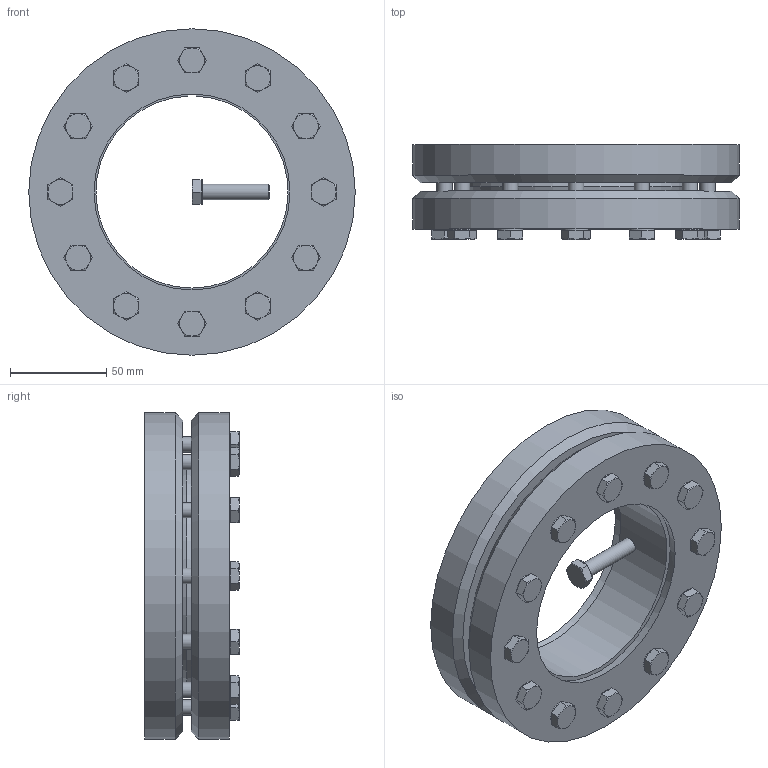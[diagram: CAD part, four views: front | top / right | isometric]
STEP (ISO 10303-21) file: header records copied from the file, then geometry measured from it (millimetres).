
FILE_DESCRIPTION( ( 'Unknown' ), '1' );
FILE_NAME( 'C:/Dokumente und Einstellungen/Sven/Desktop/homepage/cad - homepage/KBS19/KBS 19 - 100 x 170.stp', 'Unknown', ( 'Unknown' ), ( 'Unknown' ), 'XStep 1.0', 'Unknown', ' ' );
FILE_SCHEMA( ( 'automotive_design' ) );
Length unit declared in the file: millimetre
Products named in the file (3): Assem1; KBS 19 - 100 x 170; ISO 4017 - M8 x 35-N
Bounding box: 170 x 49.3 x 170 mm (x, y, z)
Volume: 1152021.3 mm3; surface area: 218342 mm2
Topology: 15 solids, 15 shells, 419 faces, 978 edges, 602 vertices
Faces by surface type: plane 223, cone 103, cylinder 80, torus 13
Full cylindrical faces by diameter (mm): 8 x61, 13 x13, 170 x4
Entity records: 2568 total; most frequent: CARTESIAN_POINT 385, DIRECTION 382, ORIENTED_EDGE 284, AXIS2_PLACEMENT_3D 170, EDGE_LOOP 159, EDGE_CURVE 142, VERTEX_POINT 109, FACE_OUTER_BOUND 101
